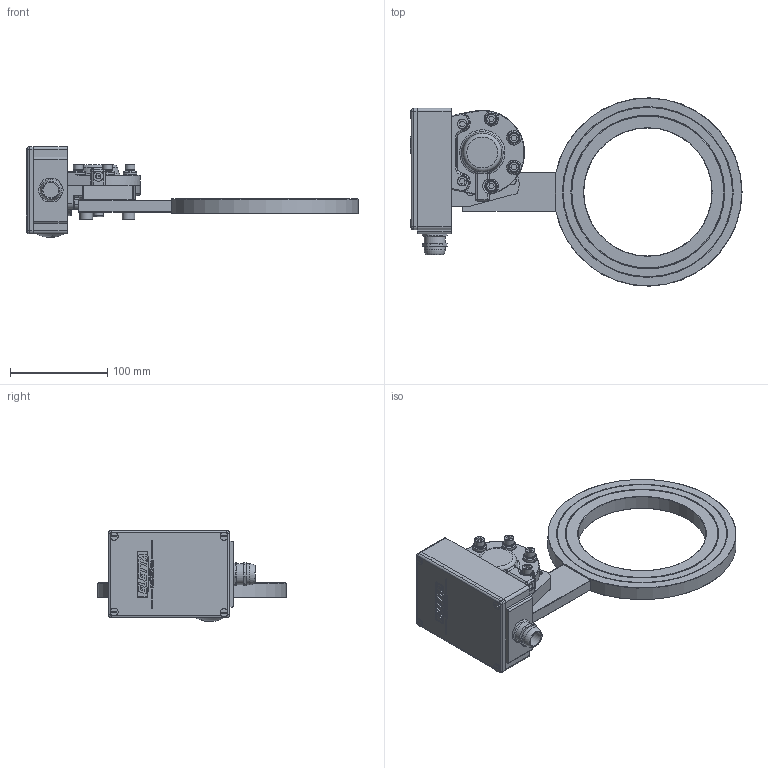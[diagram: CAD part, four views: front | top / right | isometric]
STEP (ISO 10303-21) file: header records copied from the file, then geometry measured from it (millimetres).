
FILE_DESCRIPTION(/* description */ ('Alibre Inc.'),/* implementation_level */ '2;1');
FILE_NAME(/* name */ 'export0',/* time_stamp */ '2012-10-19T13:18:48+02:00',/* author */ (''),/* organization */ (''),/* preprocessor_version */ 'ST-DEVELOPER v14',/* originating_system */ 'Alibre',/* authorisation */ '');
FILE_SCHEMA (('CONFIG_CONTROL_DESIGN'));
Length unit declared in the file: centimetre
Products named in the file (12): ID_1; ID_2; ID_3; ID_4; ID_5; ID_6; ID_7; ID_8
Bounding box: 342 x 193.97 x 93.66 mm (x, y, z)
Volume: 548723.5 mm3; surface area: 201541.6 mm2
Topology: 21 solids, 21 shells, 1085 faces, 2568 edges, 1593 vertices
Faces by surface type: plane 538, cylinder 231, bspline 162, cone 76, torus 70, sphere 8
Full cylindrical faces by diameter (mm): 3.9 x2, 5 x22, 5.5 x1, 5.541 x2, 6 x14, 6.038 x2, 6.5 x6, 8 x9, 8.5 x2, 9.6 x6, 10 x11, 10.5 x1, 12 x3, 13 x2, 14 x3, 16 x1, 17.966 x1, 19.5 x1, 22 x2, 22.5 x4, 29 x1, 31 x1, 132 x1, 157 x2, 158 x2, 175 x2, 176 x2
Entity records: 34338 total; most frequent: CARTESIAN_POINT 14030, ORIENTED_EDGE 3988, DIRECTION 3168, EDGE_CURVE 1994, VERTEX_POINT 1333, AXIS2_PLACEMENT_3D 1279, EDGE_LOOP 1159, FACE_BOUND 1159
